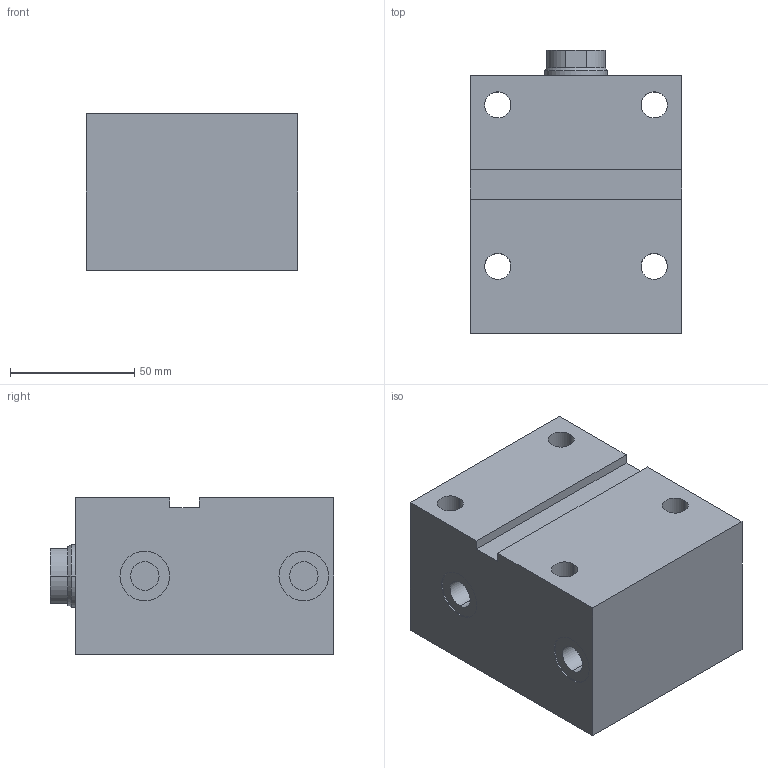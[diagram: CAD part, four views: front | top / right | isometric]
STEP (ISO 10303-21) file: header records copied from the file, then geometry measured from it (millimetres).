
FILE_DESCRIPTION (( 'STEP AP203' ), '1' );
FILE_NAME ('GERMA_Blockzylinder_601-040-050.STEP', '2016-04-06T15:54:16', ( '' ), ( '' ), 'SwSTEP 2.0', 'SolidWorks 2015', '' );
FILE_SCHEMA (( 'CONFIG_CONTROL_DESIGN' ));
Length unit declared in the file: millimetre
Products named in the file (3): GH-600-040_GH-601-040-050; Kolben 60x-040_Kolben DU.40-Hub50-IG; GERMA_Blockzylinder_601-040-050
Assembly tree (2 placements, depth 2):
  GERMA_Blockzylinder_601-040-050
    GH-600-040_GH-601-040-050
    Kolben 60x-040_Kolben DU.40-Hub50-IG
Bounding box: 85 x 114 x 63 mm (x, y, z)
Volume: 488563.7 mm3; surface area: 75529.8 mm2
Topology: 2 solids, 2 shells, 77 faces, 172 edges, 106 vertices
Faces by surface type: cylinder 37, plane 26, cone 14
Entity records: 2434 total; most frequent: DIRECTION 415, CARTESIAN_POINT 354, ORIENTED_EDGE 332, AXIS2_PLACEMENT_3D 167, EDGE_CURVE 166, VERTEX_POINT 106, EDGE_LOOP 98, CIRCLE 85
